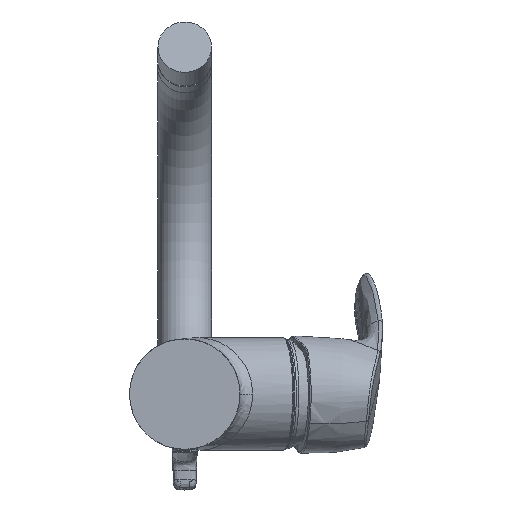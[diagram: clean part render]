
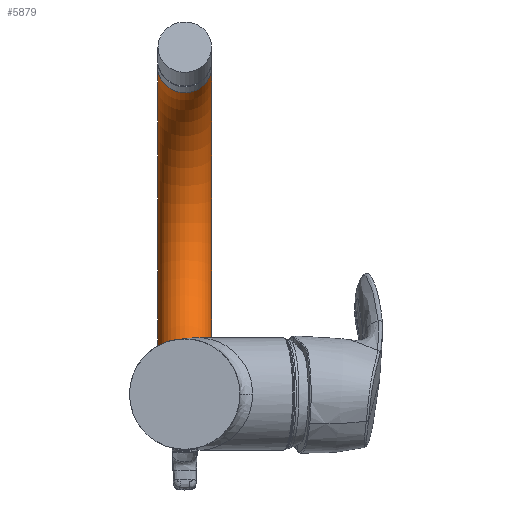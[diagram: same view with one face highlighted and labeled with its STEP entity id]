
A CAD part, front view. The second image highlights one B-rep face of the part: STEP entity #5879.
In plain terms, the highlighted toroidal (fillet/blend) face has major radius 71.63 mm and minor radius 11.4 mm.
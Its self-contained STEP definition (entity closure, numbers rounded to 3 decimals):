
#38 = FACE_OUTER_BOUND ( 'NONE', #12125, .T. ) ;
#137 = DIRECTION ( 'NONE',  ( 0., 0., -1. ) ) ;
#180 = DIRECTION ( 'NONE',  ( 0., 0.94, -0.342 ) ) ;
#459 = TOROIDAL_SURFACE ( 'NONE', #4937, 71.63, 11.4 ) ;
#1028 = AXIS2_PLACEMENT_3D ( 'NONE', #17009, #8599, #137 ) ;
#3084 = VERTEX_POINT ( 'NONE', #10537 ) ;
#4209 = VERTEX_POINT ( 'NONE', #4878 ) ;
#4878 = CARTESIAN_POINT ( 'NONE',  ( 0., 227.268, 149.652 ) ) ;
#4937 = AXIS2_PLACEMENT_3D ( 'NONE', #7813, #15855, #17270 ) ;
#5879 = ADVANCED_FACE ( 'NONE', ( #38, #17887 ), #459, .T. ) ;
#6368 = ORIENTED_EDGE ( 'NONE', *, *, #8086, .T. ) ;
#7011 = ORIENTED_EDGE ( 'NONE', *, *, #17480, .F. ) ;
#7399 = CIRCLE ( 'NONE', #1028, 11.4 ) ;
#7585 = EDGE_LOOP ( 'NONE', ( #7011 ) ) ;
#7813 = CARTESIAN_POINT ( 'NONE',  ( 0., 198.87, 71.63 ) ) ;
#8086 = EDGE_CURVE ( 'NONE', #4209, #4209, #11906, .T. ) ;
#8599 = DIRECTION ( 'NONE',  ( 0., -1., 0. ) ) ;
#8644 = CARTESIAN_POINT ( 'NONE',  ( 0., 223.369, 138.94 ) ) ;
#10053 = DIRECTION ( 'NONE',  ( 0., 0.342, 0.94 ) ) ;
#10537 = CARTESIAN_POINT ( 'NONE',  ( 0., 198.87, -11.4 ) ) ;
#11906 = CIRCLE ( 'NONE', #14963, 11.4 ) ;
#12125 = EDGE_LOOP ( 'NONE', ( #6368 ) ) ;
#14963 = AXIS2_PLACEMENT_3D ( 'NONE', #8644, #180, #10053 ) ;
#15855 = DIRECTION ( 'NONE',  ( -1., 0., 0. ) ) ;
#17009 = CARTESIAN_POINT ( 'NONE',  ( 0., 198.87, 0. ) ) ;
#17270 = DIRECTION ( 'NONE',  ( 0., 1., 0. ) ) ;
#17480 = EDGE_CURVE ( 'NONE', #3084, #3084, #7399, .T. ) ;
#17887 = FACE_OUTER_BOUND ( 'NONE', #7585, .T. ) ;
